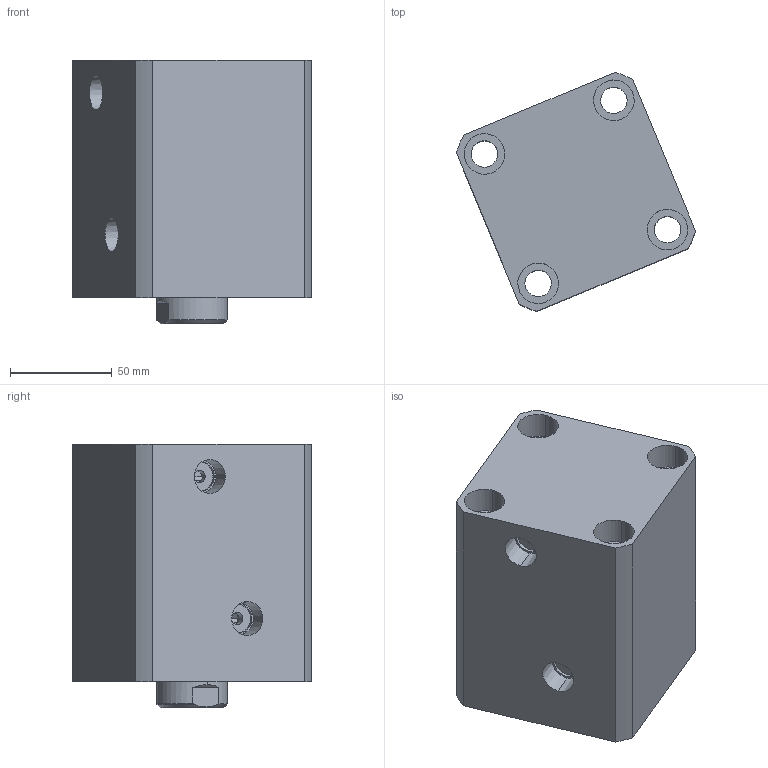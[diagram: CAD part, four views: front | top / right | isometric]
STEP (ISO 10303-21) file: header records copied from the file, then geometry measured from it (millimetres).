
FILE_DESCRIPTION (( 'STEP AP214' ), '1' );
FILE_NAME ('chtb-sd63x50n_asm.STEP', '2018-05-09T02:41:47', ( 'Windows' ), ( 'Microsoft' ), 'SwSTEP 2.0', 'SolidWorks 2015', '' );
FILE_SCHEMA (( 'AUTOMOTIVE_DESIGN' ));
Length unit declared in the file: millimetre
Products named in the file (4): CHTB63X50NHSG; CHTB63X50NBT; CHTB-63QG; chtb-sd63x50n_asm
Assembly tree (3 placements, depth 2):
  chtb-sd63x50n_asm
    CHTB-63QG
    CHTB63X50NBT
    CHTB63X50NHSG
Bounding box: 117.81 x 117.81 x 130 mm (x, y, z)
Volume: 833380.1 mm3; surface area: 144526.3 mm2
Topology: 3 solids, 3 shells, 165 faces, 465 edges, 318 vertices
Faces by surface type: cylinder 101, plane 33, bspline 12, cone 12, torus 7
Entity records: 17638 total; most frequent: CARTESIAN_POINT 13505, ORIENTED_EDGE 918, DIRECTION 719, EDGE_CURVE 459, VERTEX_POINT 318, AXIS2_PLACEMENT_3D 291, EDGE_LOOP 197, FACE_OUTER_BOUND 165
